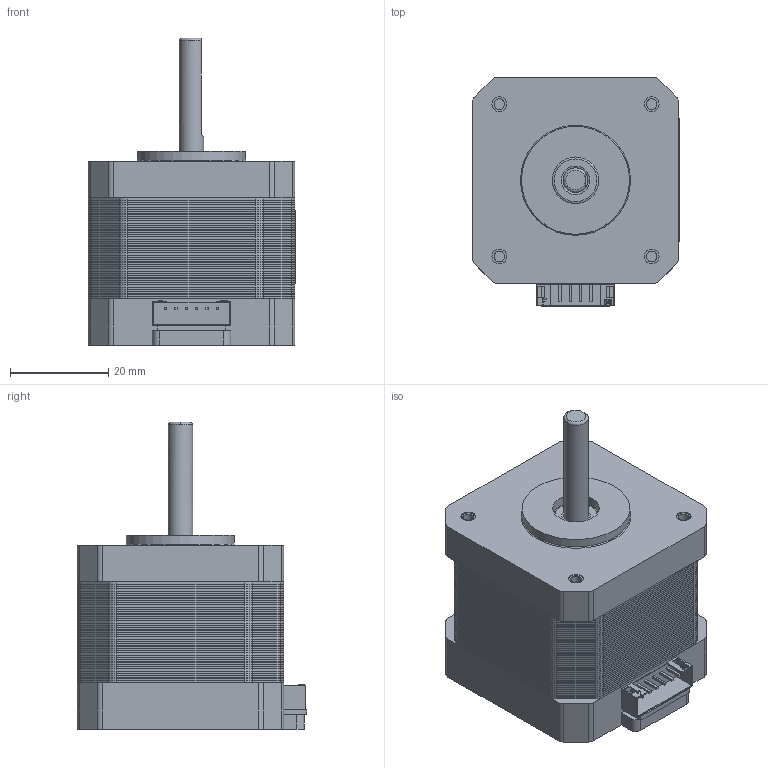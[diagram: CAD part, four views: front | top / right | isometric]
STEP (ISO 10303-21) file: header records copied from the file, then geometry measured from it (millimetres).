
FILE_DESCRIPTION(/* description */ (''),/* implementation_level */ '2;1');
FILE_NAME(/* name */ 'C:/Users/CDMX Electrónica/Google Drive/106.- Jesus Ramirez/Actividades/Diseños 3D curso/Diseño de feder/Nema17/Nema17/Nema 17 Motor a Pasos 17HS4401.step',/* time_stamp */ '2020-08-27T13:27:54-05:00',/* author */ (''),/* organization */ (''),/* preprocessor_version */ 'ST-DEVELOPER v18.1',/* originating_system */ 'Autodesk Translation Framework v9.3.0.1241',/* authorisation */ '');
FILE_SCHEMA (('AUTOMOTIVE_DESIGN { 1 0 10303 214 3 1 1 }'));
Products named in the file (5): Motor; Tornillo; Pines; Flecha 17HS4401; INF TECNICA 2
Assembly tree (7 placements, depth 2):
  Motor
    Tornillo  x4
    Pines
    Flecha 17HS4401
    INF TECNICA 2
Bounding box: 42.2 x 46.7 x 62.6 mm (x, y, z)
Volume: 66920.5 mm3; surface area: 162938.4 mm2
Topology: 85 solids, 85 shells, 2341 faces, 6190 edges, 4113 vertices
Faces by surface type: plane 1222, bspline 603, cylinder 488, torus 27, cone 1
Full cylindrical faces by diameter (mm): 0.342 x1, 0.343 x1, 0.346 x1, 1.478 x12, 1.933 x20, 2.175 x4, 2.93 x4, 3 x4, 5 x1, 5.8 x4, 6 x4, 8.8 x1, 9.5 x1, 22 x1
Entity records: 75350 total; most frequent: CARTESIAN_POINT 23623, ORIENTED_EDGE 11690, DIRECTION 8686, EDGE_CURVE 5845, VERTEX_POINT 3891, LINE 3756, VECTOR 3756, AXIS2_PLACEMENT_3D 2465
